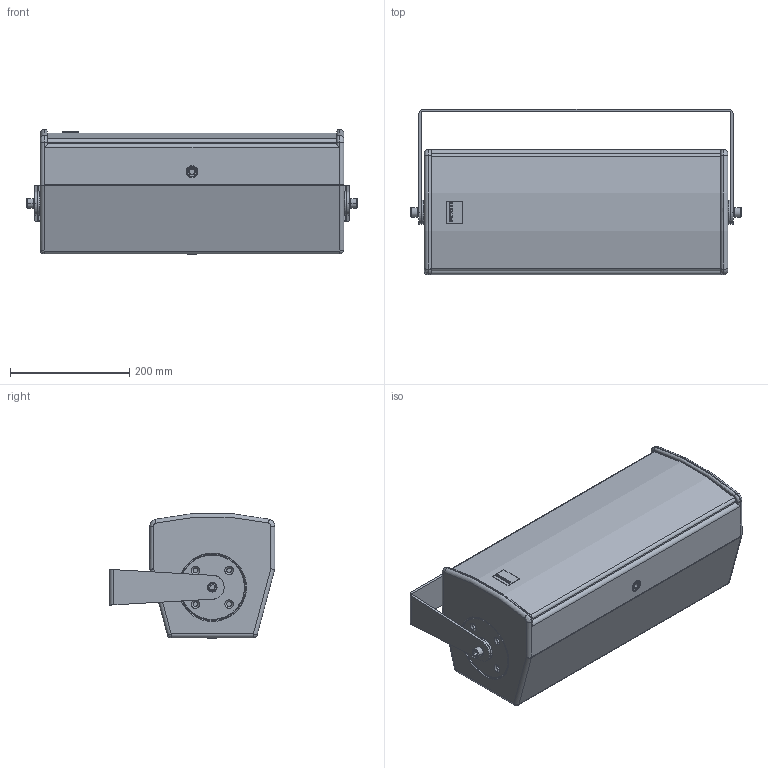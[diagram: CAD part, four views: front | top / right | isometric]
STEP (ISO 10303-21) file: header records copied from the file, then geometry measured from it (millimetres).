
FILE_DESCRIPTION (( 'STEP AP203' ), '1' );
FILE_NAME ('SEEBURG_A2_Bracket-hor.STEP', '2012-09-27T13:26:08', ( 'Fabian' ), ( '' ), 'SwSTEP 2.0', 'SolidWorks 2009', '' );
FILE_SCHEMA (( 'CONFIG_CONTROL_DESIGN' ));
Length unit declared in the file: millimetre
Products named in the file (2): A2_Bracket-hor; SEEBURG_A2_Bracket-hor
Assembly tree (1 placements, depth 2):
  SEEBURG_A2_Bracket-hor
    A2_Bracket-hor
Bounding box: 555.07 x 278 x 209.8 mm (x, y, z)
Volume: 7311054.9 mm3; surface area: 1224313.3 mm2
Topology: 21 solids, 21 shells, 515 faces, 1273 edges, 815 vertices
Faces by surface type: cylinder 214, plane 184, torus 54, cone 52, sphere 7, bspline 4
Entity records: 16724 total; most frequent: CARTESIAN_POINT 4112, DIRECTION 2715, ORIENTED_EDGE 2538, EDGE_CURVE 1269, AXIS2_PLACEMENT_3D 1051, VERTEX_POINT 813, VECTOR 613, LINE 613
